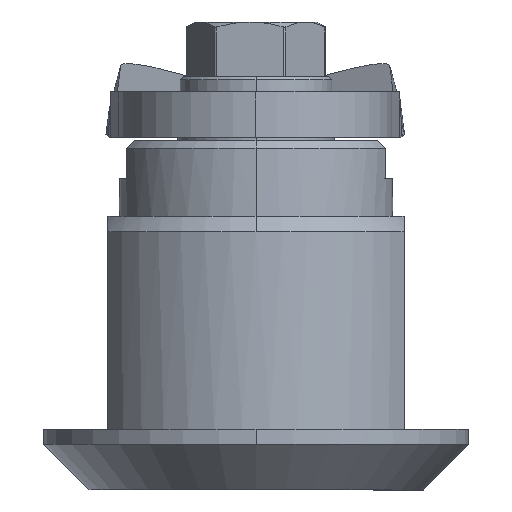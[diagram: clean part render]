
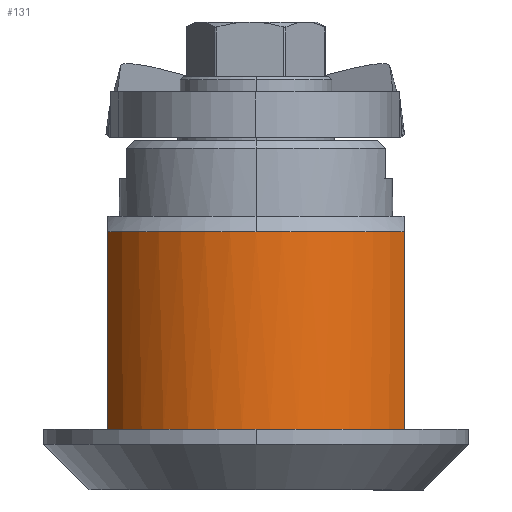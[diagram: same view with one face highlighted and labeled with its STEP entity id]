
A CAD part, left-side view. The second image highlights one B-rep face of the part: STEP entity #131.
In plain terms, the highlighted cylindrical face has radius 11 mm (diameter 22 mm), a partial arc.
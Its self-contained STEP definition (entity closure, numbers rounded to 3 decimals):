
#131 = ADVANCED_FACE ( 'NONE', ( #1929 ), #1928, .T. ) ;
#132 = EDGE_LOOP ( 'NONE', ( #133, #137, #139, #1113, #1109 ) ) ;
#133 = ORIENTED_EDGE ( 'NONE', *, *, #134, .T. ) ;
#134 = EDGE_CURVE ( 'NONE', #135, #136, #1927, .T. ) ;
#135 = VERTEX_POINT ( 'NONE', #1918 ) ;
#136 = VERTEX_POINT ( 'NONE', #1917 ) ;
#137 = ORIENTED_EDGE ( 'NONE', *, *, #138, .T. ) ;
#138 = EDGE_CURVE ( 'NONE', #136, #6119, #1916, .T. ) ;
#139 = ORIENTED_EDGE ( 'NONE', *, *, #166, .F. ) ;
#143 = VERTEX_POINT ( 'NONE', #1969 ) ;
#145 = EDGE_CURVE ( 'NONE', #143, #6056, #1968, .T. ) ;
#166 = EDGE_CURVE ( 'NONE', #6056, #6119, #2017, .T. ) ;
#1109 = ORIENTED_EDGE ( 'NONE', *, *, #1114, .T. ) ;
#1113 = ORIENTED_EDGE ( 'NONE', *, *, #145, .F. ) ;
#1114 = EDGE_CURVE ( 'NONE', #143, #135, #4444, .T. ) ;
#1913 = DIRECTION ( 'NONE',  ( 0., 0., 1. ) ) ;
#1914 = VECTOR ( 'NONE', #1913, 1000. ) ;
#1915 = CARTESIAN_POINT ( 'NONE',  ( -5.093, -9.75, 30.425 ) ) ;
#1916 = LINE ( 'NONE', #1915, #1914 ) ;
#1917 = CARTESIAN_POINT ( 'NONE',  ( -5.093, -9.75, 4.2 ) ) ;
#1918 = CARTESIAN_POINT ( 'NONE',  ( -5.093, 9.75, 4.2 ) ) ;
#1919 = DIRECTION ( 'NONE',  ( 1., 0., 0. ) ) ;
#1920 = DIRECTION ( 'NONE',  ( 0., 0., 1. ) ) ;
#1921 = CARTESIAN_POINT ( 'NONE',  ( 0., 0., 4.2 ) ) ;
#1922 = AXIS2_PLACEMENT_3D ( 'NONE', #1921, #1920, #1919 ) ;
#1923 = DIRECTION ( 'NONE',  ( 1., 0., 0. ) ) ;
#1924 = DIRECTION ( 'NONE',  ( 0., 0., 1. ) ) ;
#1925 = CARTESIAN_POINT ( 'NONE',  ( 0., 0., 30.425 ) ) ;
#1926 = AXIS2_PLACEMENT_3D ( 'NONE', #1925, #1924, #1923 ) ;
#1927 = CIRCLE ( 'NONE', #1922, 11. ) ;
#1928 = CYLINDRICAL_SURFACE ( 'NONE', #1926, 11. ) ;
#1929 = FACE_OUTER_BOUND ( 'NONE', #132, .T. ) ;
#1958 = DIRECTION ( 'NONE',  ( 1., 0., 0. ) ) ;
#1959 = DIRECTION ( 'NONE',  ( 0., 0., 1. ) ) ;
#1960 = CARTESIAN_POINT ( 'NONE',  ( 0., 0., 17.2 ) ) ;
#1961 = AXIS2_PLACEMENT_3D ( 'NONE', #1960, #1959, #1958 ) ;
#1968 = CIRCLE ( 'NONE', #1961, 11. ) ;
#1969 = CARTESIAN_POINT ( 'NONE',  ( -5.093, 9.75, 17.2 ) ) ;
#2013 = DIRECTION ( 'NONE',  ( 1., 0., 0. ) ) ;
#2014 = DIRECTION ( 'NONE',  ( 0., 0., 1. ) ) ;
#2015 = CARTESIAN_POINT ( 'NONE',  ( 0., 0., 17.2 ) ) ;
#2016 = AXIS2_PLACEMENT_3D ( 'NONE', #2015, #2014, #2013 ) ;
#2017 = CIRCLE ( 'NONE', #2016, 11. ) ;
#4441 = DIRECTION ( 'NONE',  ( 0., 0., -1. ) ) ;
#4442 = VECTOR ( 'NONE', #4441, 1000. ) ;
#4443 = CARTESIAN_POINT ( 'NONE',  ( -5.093, 9.75, 30.425 ) ) ;
#4444 = LINE ( 'NONE', #4443, #4442 ) ;
#5604 = CARTESIAN_POINT ( 'NONE',  ( -11., 0., 17.2 ) ) ;
#5756 = CARTESIAN_POINT ( 'NONE',  ( -5.093, -9.75, 17.2 ) ) ;
#6056 = VERTEX_POINT ( 'NONE', #5604 ) ;
#6119 = VERTEX_POINT ( 'NONE', #5756 ) ;
